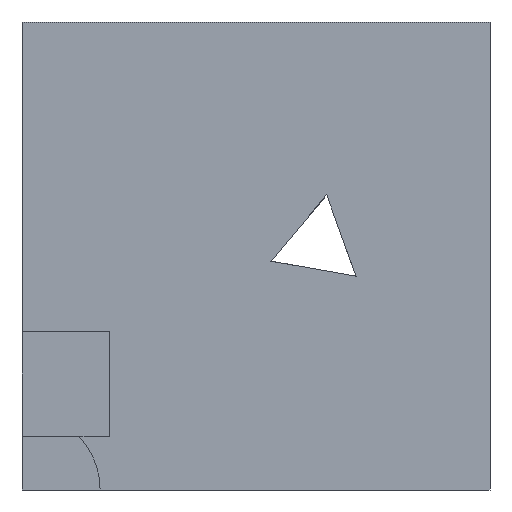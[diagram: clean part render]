
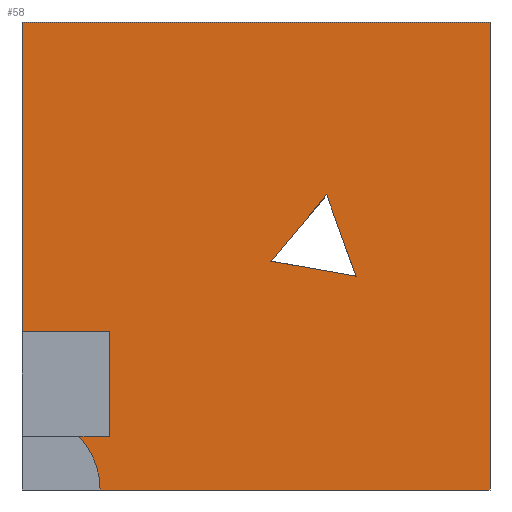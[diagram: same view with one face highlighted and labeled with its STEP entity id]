
A CAD part, front view. The second image highlights one B-rep face of the part: STEP entity #58.
In plain terms, the highlighted planar face has unit normal (0, -1, 0).
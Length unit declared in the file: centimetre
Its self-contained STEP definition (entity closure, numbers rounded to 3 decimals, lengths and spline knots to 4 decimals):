
#32 = VECTOR ( 'NONE', #154, 100. ) ;
#48 = CARTESIAN_POINT ( 'NONE',  ( 0., 0., 338.1777 ) ) ;
#58 = ADVANCED_FACE ( 'NONE', ( #1978, #1414 ), #1182, .F. ) ;
#154 = DIRECTION ( 'NONE',  ( 0.985, 0., -0.175 ) ) ;
#180 = CARTESIAN_POINT ( 'NONE',  ( 187.445, 0., 114.5412 ) ) ;
#224 = DIRECTION ( 'NONE',  ( 0., -1., 0. ) ) ;
#256 = DIRECTION ( 'NONE',  ( 0., 0., 1. ) ) ;
#328 = DIRECTION ( 'NONE',  ( 0., 0., -1. ) ) ;
#372 = CARTESIAN_POINT ( 'NONE',  ( 0., 0., 1000. ) ) ;
#394 = VECTOR ( 'NONE', #746, 100. ) ;
#451 = ORIENTED_EDGE ( 'NONE', *, *, #650, .F. ) ;
#473 = EDGE_LOOP ( 'NONE', ( #2087, #2447, #1801, #1299, #451, #1077, #2128, #591 ) ) ;
#507 = EDGE_CURVE ( 'NONE', #1926, #2474, #1157, .T. ) ;
#568 = CARTESIAN_POINT ( 'NONE',  ( 650.9891, 0., 630.4444 ) ) ;
#581 = ORIENTED_EDGE ( 'NONE', *, *, #814, .F. ) ;
#591 = ORIENTED_EDGE ( 'NONE', *, *, #2324, .F. ) ;
#618 = EDGE_CURVE ( 'NONE', #1816, #2408, #1929, .T. ) ;
#647 = LINE ( 'NONE', #1644, #991 ) ;
#650 = EDGE_CURVE ( 'NONE', #2255, #1926, #1467, .T. ) ;
#659 = CARTESIAN_POINT ( 'NONE',  ( 187.445, 0., 338.1777 ) ) ;
#678 = VERTEX_POINT ( 'NONE', #2063 ) ;
#698 = LINE ( 'NONE', #847, #914 ) ;
#706 = EDGE_LOOP ( 'NONE', ( #581, #976, #2393 ) ) ;
#720 = CARTESIAN_POINT ( 'NONE',  ( 0., 0., 338.1777 ) ) ;
#734 = DIRECTION ( 'NONE',  ( -0.34, 0., 0.94 ) ) ;
#746 = DIRECTION ( 'NONE',  ( 1., 0., 0. ) ) ;
#814 = EDGE_CURVE ( 'NONE', #1135, #1048, #2040, .T. ) ;
#828 = DIRECTION ( 'NONE',  ( 0., 1., 0. ) ) ;
#837 = CARTESIAN_POINT ( 'NONE',  ( 531.958, 0., 489.0837 ) ) ;
#846 = EDGE_CURVE ( 'NONE', #2474, #1816, #1696, .T. ) ;
#847 = CARTESIAN_POINT ( 'NONE',  ( 650.9891, 0., 630.4444 ) ) ;
#858 = EDGE_CURVE ( 'NONE', #2344, #2408, #2452, .T. ) ;
#914 = VECTOR ( 'NONE', #1474, 100. ) ;
#976 = ORIENTED_EDGE ( 'NONE', *, *, #1708, .F. ) ;
#986 = DIRECTION ( 'NONE',  ( 0., 0., -1. ) ) ;
#991 = VECTOR ( 'NONE', #1827, 100. ) ;
#1048 = VERTEX_POINT ( 'NONE', #1618 ) ;
#1057 = CARTESIAN_POINT ( 'NONE',  ( 1000., 0., 1000. ) ) ;
#1077 = ORIENTED_EDGE ( 'NONE', *, *, #2200, .T. ) ;
#1123 = VECTOR ( 'NONE', #328, 100. ) ;
#1135 = VERTEX_POINT ( 'NONE', #837 ) ;
#1157 = LINE ( 'NONE', #1553, #2469 ) ;
#1161 = DIRECTION ( 'NONE',  ( 0., 0., -1. ) ) ;
#1175 = AXIS2_PLACEMENT_3D ( 'NONE', #1196, #828, #256 ) ;
#1182 = PLANE ( 'NONE',  #1175 ) ;
#1196 = CARTESIAN_POINT ( 'NONE',  ( 0., 0., 1000. ) ) ;
#1208 = VERTEX_POINT ( 'NONE', #1057 ) ;
#1224 = CARTESIAN_POINT ( 'NONE',  ( 167.0043, 0., 0. ) ) ;
#1276 = VECTOR ( 'NONE', #1574, 100. ) ;
#1299 = ORIENTED_EDGE ( 'NONE', *, *, #507, .F. ) ;
#1305 = VECTOR ( 'NONE', #734, 100. ) ;
#1321 = EDGE_CURVE ( 'NONE', #1208, #678, #1833, .T. ) ;
#1414 = FACE_OUTER_BOUND ( 'NONE', #473, .T. ) ;
#1467 = CIRCLE ( 'NONE', #2101, 167.0043 ) ;
#1474 = DIRECTION ( 'NONE',  ( -0.644, 0., -0.765 ) ) ;
#1487 = CARTESIAN_POINT ( 'NONE',  ( 0., 0., 1000. ) ) ;
#1538 = CARTESIAN_POINT ( 'NONE',  ( 121.535, 0., 114.5412 ) ) ;
#1553 = CARTESIAN_POINT ( 'NONE',  ( 0., 0., 114.5412 ) ) ;
#1574 = DIRECTION ( 'NONE',  ( -1., 0., 0. ) ) ;
#1585 = CARTESIAN_POINT ( 'NONE',  ( 0., 0., 0. ) ) ;
#1618 = CARTESIAN_POINT ( 'NONE',  ( 713.8955, 0., 456.68 ) ) ;
#1644 = CARTESIAN_POINT ( 'NONE',  ( 0., 0., 0. ) ) ;
#1668 = CARTESIAN_POINT ( 'NONE',  ( 531.958, 0., 489.0837 ) ) ;
#1696 = LINE ( 'NONE', #180, #2115 ) ;
#1708 = EDGE_CURVE ( 'NONE', #1861, #1135, #698, .T. ) ;
#1769 = DIRECTION ( 'NONE',  ( 1., 0., 0. ) ) ;
#1801 = ORIENTED_EDGE ( 'NONE', *, *, #846, .F. ) ;
#1816 = VERTEX_POINT ( 'NONE', #659 ) ;
#1827 = DIRECTION ( 'NONE',  ( 1., 0., 0. ) ) ;
#1833 = LINE ( 'NONE', #2031, #1123 ) ;
#1861 = VERTEX_POINT ( 'NONE', #568 ) ;
#1926 = VERTEX_POINT ( 'NONE', #1538 ) ;
#1929 = LINE ( 'NONE', #48, #1276 ) ;
#1978 = FACE_BOUND ( 'NONE', #706, .T. ) ;
#2031 = CARTESIAN_POINT ( 'NONE',  ( 1000., 0., 1000. ) ) ;
#2040 = LINE ( 'NONE', #1668, #32 ) ;
#2063 = CARTESIAN_POINT ( 'NONE',  ( 1000., 0., 0. ) ) ;
#2085 = DIRECTION ( 'NONE',  ( 0., 0., 1. ) ) ;
#2087 = ORIENTED_EDGE ( 'NONE', *, *, #858, .T. ) ;
#2101 = AXIS2_PLACEMENT_3D ( 'NONE', #1585, #224, #986 ) ;
#2115 = VECTOR ( 'NONE', #2085, 100. ) ;
#2128 = ORIENTED_EDGE ( 'NONE', *, *, #1321, .F. ) ;
#2190 = VECTOR ( 'NONE', #1161, 100. ) ;
#2200 = EDGE_CURVE ( 'NONE', #2255, #678, #647, .T. ) ;
#2225 = LINE ( 'NONE', #1487, #394 ) ;
#2238 = LINE ( 'NONE', #2453, #1305 ) ;
#2255 = VERTEX_POINT ( 'NONE', #1224 ) ;
#2262 = CARTESIAN_POINT ( 'NONE',  ( 0., 0., 1000. ) ) ;
#2324 = EDGE_CURVE ( 'NONE', #2344, #1208, #2225, .T. ) ;
#2344 = VERTEX_POINT ( 'NONE', #2262 ) ;
#2381 = EDGE_CURVE ( 'NONE', #1048, #1861, #2238, .T. ) ;
#2393 = ORIENTED_EDGE ( 'NONE', *, *, #2381, .F. ) ;
#2408 = VERTEX_POINT ( 'NONE', #720 ) ;
#2439 = CARTESIAN_POINT ( 'NONE',  ( 187.445, 0., 114.5412 ) ) ;
#2447 = ORIENTED_EDGE ( 'NONE', *, *, #618, .F. ) ;
#2452 = LINE ( 'NONE', #372, #2190 ) ;
#2453 = CARTESIAN_POINT ( 'NONE',  ( 713.8955, 0., 456.68 ) ) ;
#2469 = VECTOR ( 'NONE', #1769, 100. ) ;
#2474 = VERTEX_POINT ( 'NONE', #2439 ) ;
